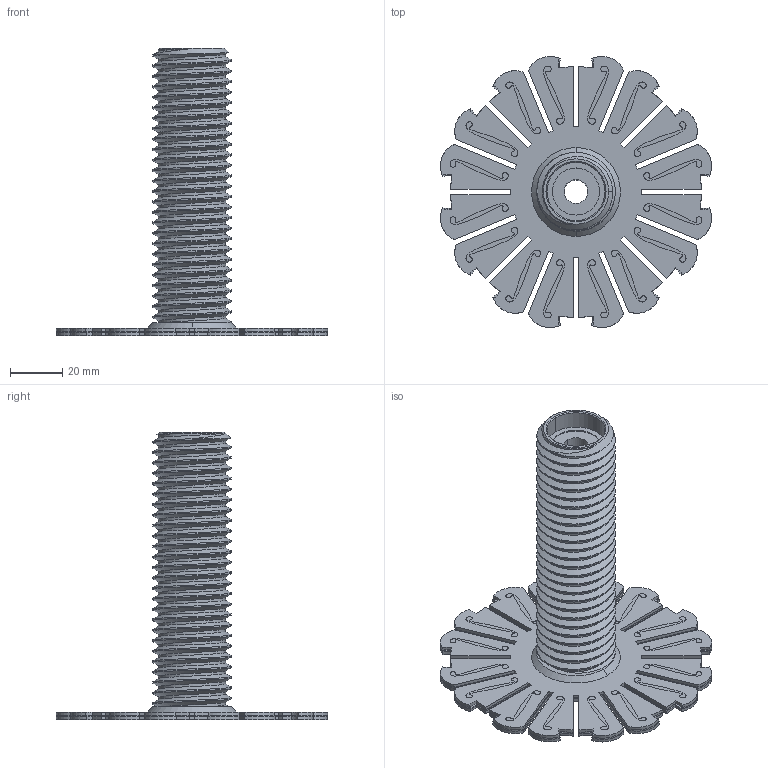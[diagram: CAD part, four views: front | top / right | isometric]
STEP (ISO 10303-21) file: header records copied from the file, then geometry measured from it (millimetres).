
FILE_DESCRIPTION (( 'STEP AP214' ), '1' );
FILE_NAME ('Hub_107_v3.2.STEP', '2019-03-31T19:01:54', ( '' ), ( '' ), 'SwSTEP 2.0', 'SolidWorks 2018', '' );
FILE_SCHEMA (( 'AUTOMOTIVE_DESIGN' ));
Length unit declared in the file: millimetre
Products named in the file (1): Hub_107_v3.2
Bounding box: 103.69 x 103.69 x 110 mm (x, y, z)
Volume: 74548.2 mm3; surface area: 48255.8 mm2
Topology: 18 solids, 18 shells, 1333 faces, 3866 edges, 2574 vertices
Faces by surface type: bspline 643, cylinder 348, plane 334, cone 8
Entity records: 71179 total; most frequent: CARTESIAN_POINT 38195, ORIENTED_EDGE 7732, DIRECTION 4503, EDGE_CURVE 3866, VERTEX_POINT 2574, LINE 1823, VECTOR 1823, EDGE_LOOP 1374
